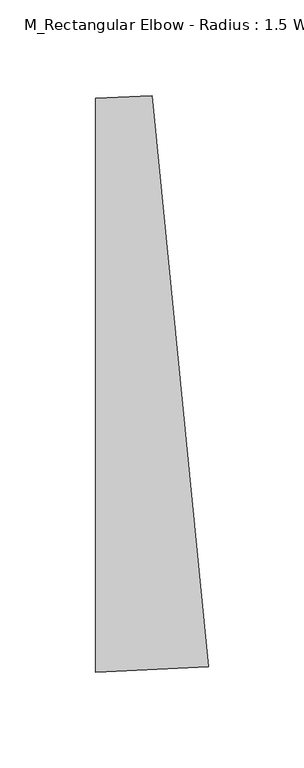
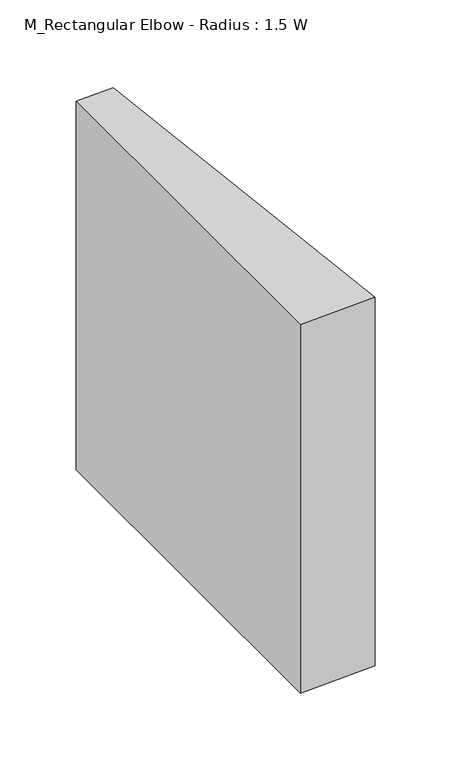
"""IFC4 building model written with IfcOpenShell, lengths in millimetres: duct fitting geometry, M_Rectangular Elbow - Radius : 1.5 W."""

from ifc_helpers import new_model, si_unit, point, frame, frame_2d, origin, place, context, project, spatial, polyline, circle_curve, trimmed, segment, composite_curve, outline, extrude, source, transform, mapped, element, save


def m_rectangular_elbow_radius_1_5_w_de0ab8f1(model_context):
    return source(origin(), model_context, "Body", "SweptSolid", [
        extrude(outline(composite_curve([segment(trimmed(circle_curve(frame_2d((-22.1968864, 450.0)), 600.0), [point((36.8511411, -147.0873725))], [point((-22.1968864, -150.0))], False, "CARTESIAN"), True, "CONTINUOUS"), segment(polyline([(-22.1968864, -150.0), (-22.1968864, 150.0)]), True, "CONTINUOUS"), segment(trimmed(circle_curve(frame_2d((-22.1968864, 450.0)), 300.0), [point((-22.1968864, 150.0))], [point((7.3271274, 151.4563137))], True, "CARTESIAN"), True, "CONTINUOUS"), segment(polyline([(7.3271274, 151.4563137), (36.8511411, -147.0873725)]), True, "CONTINUOUS")], self_intersect=False)), frame((0.0, 0.0, -150.0), z_axis=(0.0, 0.0, 1.0), x_axis=(1.0, 0.0, 0.0)), (0.0, 0.0, 1.0), 300.0),
        extrude(outline(composite_curve([segment(trimmed(circle_curve(frame_2d((-22.1968864, 450.0)), 600.0), [point((36.8511411, -147.0873725))], [point((-22.1968864, -150.0))], False, "CARTESIAN"), True, "CONTINUOUS"), segment(polyline([(-22.1968864, -150.0), (-22.1968864, 150.0)]), True, "CONTINUOUS"), segment(trimmed(circle_curve(frame_2d((-22.1968864, 450.0)), 300.0), [point((-22.1968864, 150.0))], [point((7.3271274, 151.4563137))], True, "CARTESIAN"), True, "CONTINUOUS"), segment(polyline([(7.3271274, 151.4563137), (36.8511411, -147.0873725)]), True, "CONTINUOUS")], self_intersect=False)), frame((0.0, 0.0, -150.0), z_axis=(0.0, 0.0, 1.0), x_axis=(1.0, 0.0, 0.0)), (0.0, 0.0, 1.0), 300.0),
        extrude(outline(composite_curve([segment(trimmed(circle_curve(frame_2d((-22.1968864, 450.0)), 600.0), [point((36.8511411, -147.0873725))], [point((-22.1968864, -150.0))], False, "CARTESIAN"), True, "CONTINUOUS"), segment(polyline([(-22.1968864, -150.0), (-22.1968864, 150.0)]), True, "CONTINUOUS"), segment(trimmed(circle_curve(frame_2d((-22.1968864, 450.0)), 300.0), [point((-22.1968864, 150.0))], [point((7.3271274, 151.4563137))], True, "CARTESIAN"), True, "CONTINUOUS"), segment(polyline([(7.3271274, 151.4563137), (36.8511411, -147.0873725)]), True, "CONTINUOUS")], self_intersect=False)), frame((0.0, 0.0, -150.0), z_axis=(0.0, 0.0, 1.0), x_axis=(1.0, 0.0, 0.0)), (0.0, 0.0, 1.0), 300.0),
    ])


if __name__ == "__main__":
    model = new_model("IFC4")
    model_context = context("Model", 3, world=origin())
    ifc_project = project(units=[si_unit("LENGTHUNIT", "METRE", prefix="MILLI")], contexts=[model_context])
    site = spatial("IfcSite", under=ifc_project)
    building = spatial("IfcBuilding", under=site)
    placement = place(None, origin())
    m_rectangular_elbow_radius_1_5_w_shape = m_rectangular_elbow_radius_1_5_w_de0ab8f1(model_context)
    element("IfcDuctFitting", 1, ObjectType="M_Rectangular Elbow - Radius : 1.5 W", at=placement, inside=building, context=model_context, shape_type="MappedRepresentation", body=[
        mapped(m_rectangular_elbow_radius_1_5_w_shape, transform((0.0, 0.0, 0.0), x_axis=(1.0, 0.0, 0.0), y_axis=(0.0, 1.0, 0.0), z_axis=(0.0, 0.0, 1.0))),
    ])
    save(model, "model.ifc")
